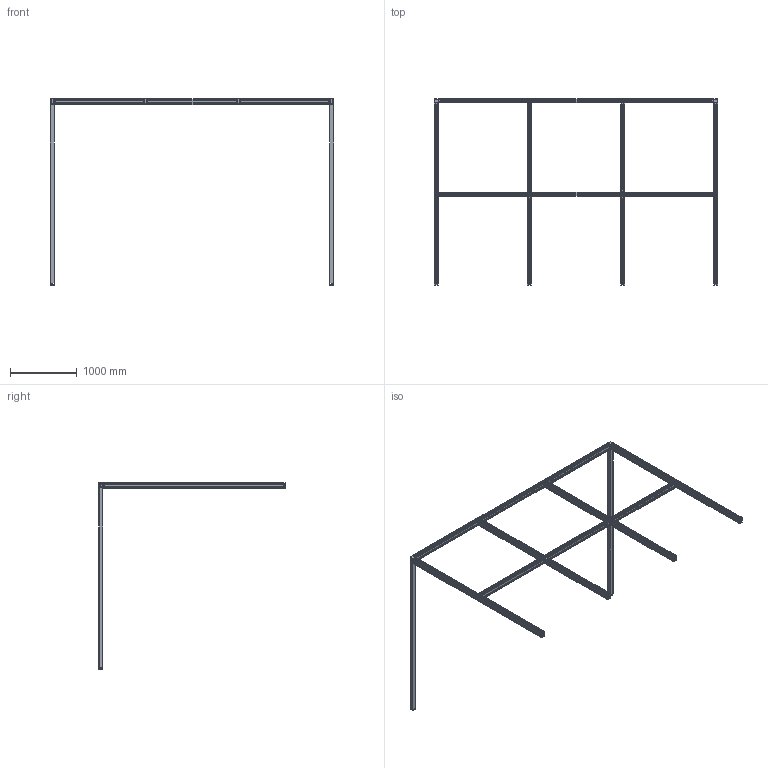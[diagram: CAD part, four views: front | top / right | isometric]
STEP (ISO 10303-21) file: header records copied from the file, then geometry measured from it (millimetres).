
FILE_DESCRIPTION (( 'STEP AP214' ), '1' );
FILE_NAME ('1001980.STEP', '2025-09-15T11:13:20', ( '' ), ( '' ), 'SwSTEP 2.0', 'SolidWorks 2025', '' );
FILE_SCHEMA (( 'AUTOMOTIVE_DESIGN' ));
Length unit declared in the file: millimetre
Products named in the file (1): 1001980
Bounding box: 4262.4 x 2801.2 x 2800 mm (x, y, z)
Volume: 57958142.2 mm3; surface area: 13949775.5 mm2
Topology: 54 solids, 54 shells, 4224 faces, 11817 edges, 7797 vertices
Faces by surface type: plane 2678, cylinder 1274, bspline 180, cone 52, sphere 32, torus 8
Entity records: 146537 total; most frequent: CARTESIAN_POINT 37317, ORIENTED_EDGE 23634, DIRECTION 21487, EDGE_CURVE 11817, VECTOR 8753, LINE 8753, VERTEX_POINT 7797, AXIS2_PLACEMENT_3D 6367
